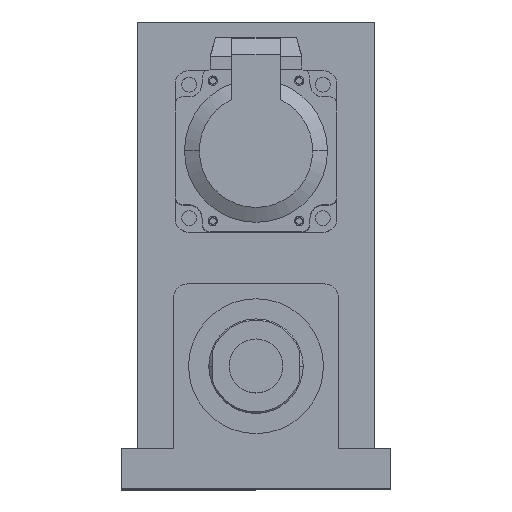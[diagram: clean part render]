
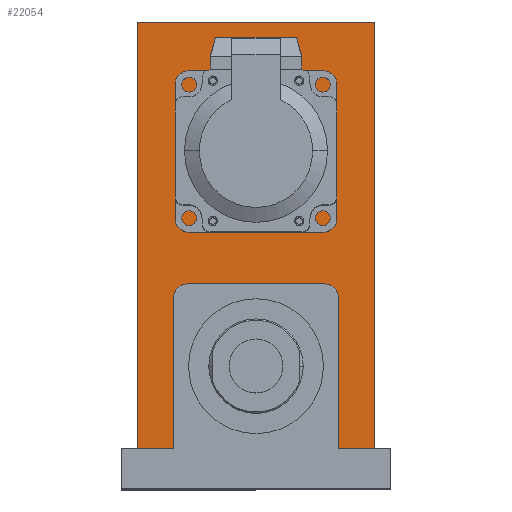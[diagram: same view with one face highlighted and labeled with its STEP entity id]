
A CAD part, top view. The second image highlights one B-rep face of the part: STEP entity #22054.
In plain terms, the highlighted planar face has unit normal (0, 0, 1).
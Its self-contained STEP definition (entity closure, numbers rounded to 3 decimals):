
#281 = CARTESIAN_POINT ( 'NONE',  ( 0., 80., -31. ) ) ;
#766 = VERTEX_POINT ( 'NONE', #12619 ) ;
#823 = EDGE_CURVE ( 'NONE', #20101, #2169, #16458, .T. ) ;
#852 = DIRECTION ( 'NONE',  ( -1., 0., 0. ) ) ;
#898 = VERTEX_POINT ( 'NONE', #11884 ) ;
#970 = DIRECTION ( 'NONE',  ( 1., 0., 0. ) ) ;
#1277 = DIRECTION ( 'NONE',  ( 0., -1., 0. ) ) ;
#1582 = VECTOR ( 'NONE', #21225, 1000. ) ;
#2169 = VERTEX_POINT ( 'NONE', #10820 ) ;
#2172 = DIRECTION ( 'NONE',  ( 1., 0., 0. ) ) ;
#2543 = VERTEX_POINT ( 'NONE', #10446 ) ;
#2816 = EDGE_LOOP ( 'NONE', ( #15986, #13350, #18312, #23351, #12940, #15738, #3308, #15186, #9257, #15415 ) ) ;
#2856 = EDGE_CURVE ( 'NONE', #21802, #20435, #14868, .T. ) ;
#3008 = LINE ( 'NONE', #21515, #16806 ) ;
#3268 = DIRECTION ( 'NONE',  ( 0., 0., -1. ) ) ;
#3276 = CIRCLE ( 'NONE', #6792, 5. ) ;
#3283 = CARTESIAN_POINT ( 'NONE',  ( 30.5, 25.5, -31. ) ) ;
#3308 = ORIENTED_EDGE ( 'NONE', *, *, #21353, .T. ) ;
#3522 = CIRCLE ( 'NONE', #12953, 9.088 ) ;
#3951 = EDGE_CURVE ( 'NONE', #766, #21802, #9789, .T. ) ;
#4338 = EDGE_CURVE ( 'NONE', #15265, #20289, #7739, .T. ) ;
#4414 = DIRECTION ( 'NONE',  ( -1., 0., 0. ) ) ;
#5251 = CARTESIAN_POINT ( 'NONE',  ( 0., 0., -31. ) ) ;
#6270 = EDGE_LOOP ( 'NONE', ( #13037, #7572 ) ) ;
#6792 = AXIS2_PLACEMENT_3D ( 'NONE', #19888, #21733, #852 ) ;
#7094 = EDGE_CURVE ( 'NONE', #20435, #20289, #3008, .T. ) ;
#7181 = CARTESIAN_POINT ( 'NONE',  ( 44., 128., -31. ) ) ;
#7572 = ORIENTED_EDGE ( 'NONE', *, *, #23077, .F. ) ;
#7739 = LINE ( 'NONE', #18779, #20149 ) ;
#7853 = CARTESIAN_POINT ( 'NONE',  ( 30.5, 25.5, -31. ) ) ;
#7931 = DIRECTION ( 'NONE',  ( 1., 0., 0. ) ) ;
#8833 = CARTESIAN_POINT ( 'NONE',  ( -25.5, 25.5, -31. ) ) ;
#8967 = CARTESIAN_POINT ( 'NONE',  ( 44., 128., -31. ) ) ;
#9257 = ORIENTED_EDGE ( 'NONE', *, *, #7094, .F. ) ;
#9606 = DIRECTION ( 'NONE',  ( 0., 1., 0. ) ) ;
#9789 = LINE ( 'NONE', #21389, #1582 ) ;
#9973 = CARTESIAN_POINT ( 'NONE',  ( 30.5, -30.5, -31. ) ) ;
#10446 = CARTESIAN_POINT ( 'NONE',  ( -9.088, 80., -31. ) ) ;
#10640 = LINE ( 'NONE', #3283, #24284 ) ;
#10820 = CARTESIAN_POINT ( 'NONE',  ( -25.5, 30.5, -31. ) ) ;
#11043 = AXIS2_PLACEMENT_3D ( 'NONE', #5251, #18554, #12809 ) ;
#11565 = VECTOR ( 'NONE', #970, 1000. ) ;
#11884 = CARTESIAN_POINT ( 'NONE',  ( 25.5, 30.5, -31. ) ) ;
#12340 = VERTEX_POINT ( 'NONE', #7853 ) ;
#12499 = LINE ( 'NONE', #16860, #21989 ) ;
#12619 = CARTESIAN_POINT ( 'NONE',  ( -44., -30.5, -31. ) ) ;
#12733 = PLANE ( 'NONE',  #11043 ) ;
#12803 = EDGE_CURVE ( 'NONE', #766, #17200, #12499, .T. ) ;
#12809 = DIRECTION ( 'NONE',  ( 1., 0., 0. ) ) ;
#12810 = EDGE_CURVE ( 'NONE', #17200, #20101, #18693, .T. ) ;
#12940 = ORIENTED_EDGE ( 'NONE', *, *, #20696, .T. ) ;
#12953 = AXIS2_PLACEMENT_3D ( 'NONE', #18182, #22195, #20212 ) ;
#12966 = FACE_OUTER_BOUND ( 'NONE', #2816, .T. ) ;
#13037 = ORIENTED_EDGE ( 'NONE', *, *, #20066, .F. ) ;
#13350 = ORIENTED_EDGE ( 'NONE', *, *, #12803, .T. ) ;
#13422 = DIRECTION ( 'NONE',  ( 0., 0., 1. ) ) ;
#13533 = FACE_BOUND ( 'NONE', #6270, .T. ) ;
#14868 = LINE ( 'NONE', #7181, #15770 ) ;
#15186 = ORIENTED_EDGE ( 'NONE', *, *, #4338, .T. ) ;
#15265 = VERTEX_POINT ( 'NONE', #9973 ) ;
#15415 = ORIENTED_EDGE ( 'NONE', *, *, #2856, .F. ) ;
#15439 = CIRCLE ( 'NONE', #19877, 9.088 ) ;
#15696 = LINE ( 'NONE', #23572, #11565 ) ;
#15738 = ORIENTED_EDGE ( 'NONE', *, *, #22297, .T. ) ;
#15770 = VECTOR ( 'NONE', #22457, 1000. ) ;
#15986 = ORIENTED_EDGE ( 'NONE', *, *, #3951, .F. ) ;
#16458 = CIRCLE ( 'NONE', #18174, 5. ) ;
#16806 = VECTOR ( 'NONE', #19914, 1000. ) ;
#16860 = CARTESIAN_POINT ( 'NONE',  ( -50., -30.5, -31. ) ) ;
#17200 = VERTEX_POINT ( 'NONE', #17975 ) ;
#17975 = CARTESIAN_POINT ( 'NONE',  ( -30.5, -30.5, -31. ) ) ;
#18174 = AXIS2_PLACEMENT_3D ( 'NONE', #8833, #3268, #4414 ) ;
#18182 = CARTESIAN_POINT ( 'NONE',  ( 0., 80., -31. ) ) ;
#18312 = ORIENTED_EDGE ( 'NONE', *, *, #12810, .T. ) ;
#18554 = DIRECTION ( 'NONE',  ( 0., 0., 1. ) ) ;
#18693 = LINE ( 'NONE', #22607, #20209 ) ;
#18779 = CARTESIAN_POINT ( 'NONE',  ( 30.5, -30.5, -31. ) ) ;
#18850 = DIRECTION ( 'NONE',  ( 1., 0., 0. ) ) ;
#19132 = CARTESIAN_POINT ( 'NONE',  ( -30.5, 25.5, -31. ) ) ;
#19386 = CARTESIAN_POINT ( 'NONE',  ( -44., 128., -31. ) ) ;
#19875 = CARTESIAN_POINT ( 'NONE',  ( 44., -30.5, -31. ) ) ;
#19877 = AXIS2_PLACEMENT_3D ( 'NONE', #281, #13422, #7931 ) ;
#19888 = CARTESIAN_POINT ( 'NONE',  ( 25.5, 25.5, -31. ) ) ;
#19914 = DIRECTION ( 'NONE',  ( 0., -1., 0. ) ) ;
#20066 = EDGE_CURVE ( 'NONE', #20692, #2543, #15439, .T. ) ;
#20101 = VERTEX_POINT ( 'NONE', #19132 ) ;
#20149 = VECTOR ( 'NONE', #18850, 1000. ) ;
#20209 = VECTOR ( 'NONE', #9606, 1000. ) ;
#20212 = DIRECTION ( 'NONE',  ( 1., 0., 0. ) ) ;
#20289 = VERTEX_POINT ( 'NONE', #19875 ) ;
#20435 = VERTEX_POINT ( 'NONE', #8967 ) ;
#20692 = VERTEX_POINT ( 'NONE', #21848 ) ;
#20696 = EDGE_CURVE ( 'NONE', #2169, #898, #15696, .T. ) ;
#21225 = DIRECTION ( 'NONE',  ( 0., 1., 0. ) ) ;
#21353 = EDGE_CURVE ( 'NONE', #12340, #15265, #10640, .T. ) ;
#21389 = CARTESIAN_POINT ( 'NONE',  ( -44., -42., -31. ) ) ;
#21515 = CARTESIAN_POINT ( 'NONE',  ( 44., -42., -31. ) ) ;
#21733 = DIRECTION ( 'NONE',  ( 0., 0., -1. ) ) ;
#21802 = VERTEX_POINT ( 'NONE', #19386 ) ;
#21848 = CARTESIAN_POINT ( 'NONE',  ( 9.088, 80., -31. ) ) ;
#21989 = VECTOR ( 'NONE', #2172, 1000. ) ;
#22054 = ADVANCED_FACE ( 'NONE', ( #13533, #12966 ), #12733, .T. ) ;
#22195 = DIRECTION ( 'NONE',  ( 0., 0., 1. ) ) ;
#22297 = EDGE_CURVE ( 'NONE', #898, #12340, #3276, .T. ) ;
#22457 = DIRECTION ( 'NONE',  ( 1., 0., 0. ) ) ;
#22607 = CARTESIAN_POINT ( 'NONE',  ( -30.5, -30.5, -31. ) ) ;
#23077 = EDGE_CURVE ( 'NONE', #2543, #20692, #3522, .T. ) ;
#23351 = ORIENTED_EDGE ( 'NONE', *, *, #823, .T. ) ;
#23572 = CARTESIAN_POINT ( 'NONE',  ( -25.5, 30.5, -31. ) ) ;
#24284 = VECTOR ( 'NONE', #1277, 1000. ) ;
